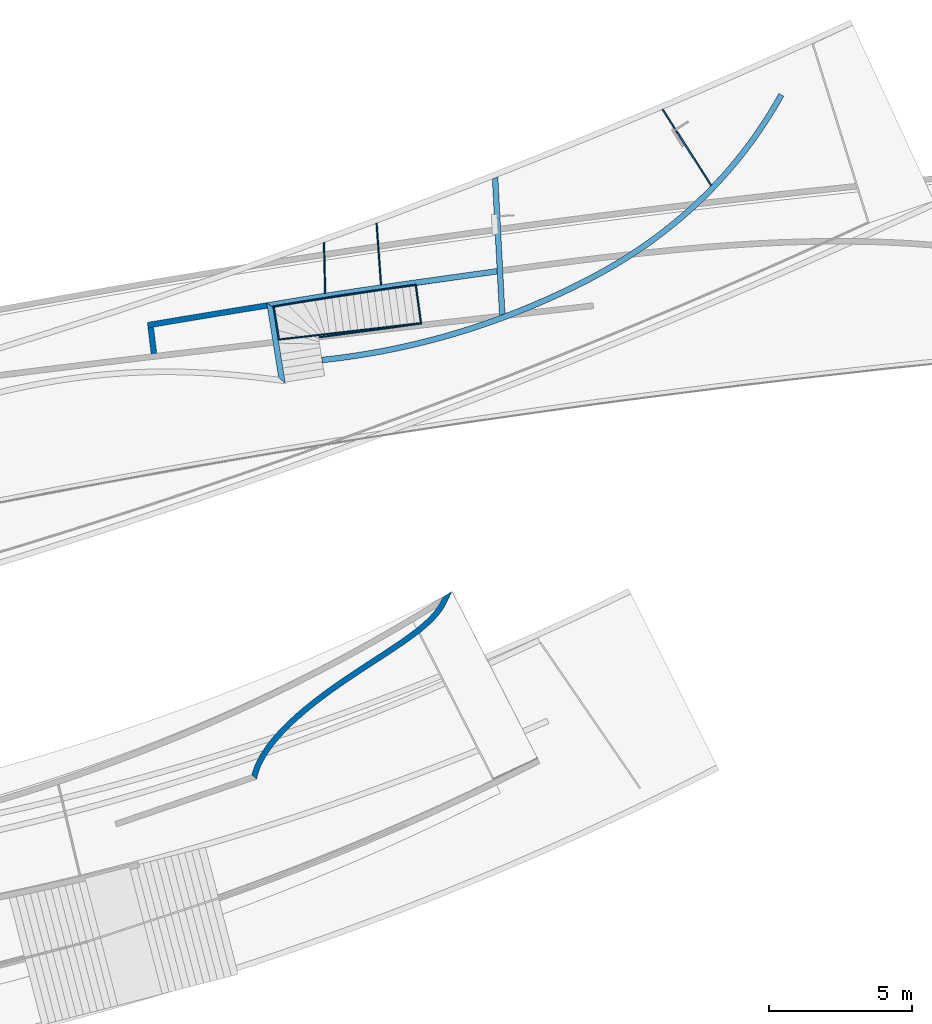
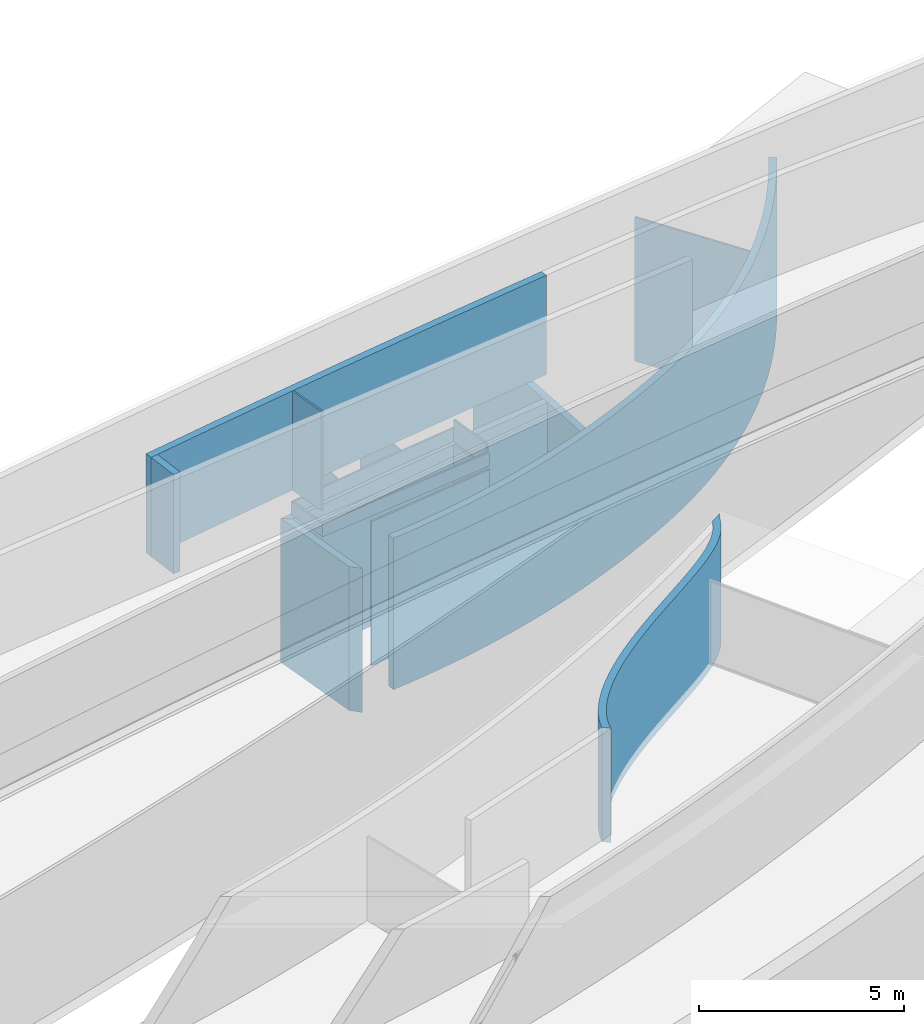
# Not in any storey, part 7 of 16: 17 walls.
"""IFC2X3 model written with IfcOpenShell, lengths in millimetres."""

from ifc_helpers import new_model, entity, si_unit, converted_unit, point, direction, frame, frame_2d, origin_with_axes, place, context, project, spatial, polyline, circle_curve, trimmed, segment, composite_curve, outline, extrude, material, layer, layer_set, layer_usage, type_object, element, save


model = new_model("IFC2X3")

# Units and contexts
model_context = context("Model", 3, precision=1.0, world=origin_with_axes(), true_north=direction((0.0, 1.0)))
ifc_project = project(units=[converted_unit("PLANEANGLEUNIT", "DEGREE", entity("IfcRatioMeasure", 0.017453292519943), si_unit("PLANEANGLEUNIT", "RADIAN"), dimensions=[0, 0, 0, 0, 0, 0, 0]), si_unit("LENGTHUNIT", "METRE", prefix="MILLI")], contexts=[model_context])

# Site
site_placement = place(None, origin_with_axes())
site = spatial("IfcSite", under=ifc_project, at=site_placement, Name="Site", CompositionType="ELEMENT")

# Walls
ifc_material_1 = material(Name="Wall layer 1")
ifc_layer_1 = layer(ifc_material_1, 200.0)
ifc_layer_set_1 = layer_set([ifc_layer_1], Name="HOKI 350")
ifc_layer_usage_1 = layer_usage(ifc_layer_set_1, "AXIS2", "POSITIVE", -100.0)
wall_type_1 = type_object("IfcWallType", Name="HOKI 350", PredefinedType="STANDARD", material=ifc_layer_set_1)
wall_1_placement = place(site_placement, frame((14103.4641431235, 6312.68434524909, 4720.0), z_axis=(0.0, 0.0, 1.0), x_axis=(-0.158177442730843, 0.987410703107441, 0.0)))
element("IfcWallStandardCase", 1, at=wall_1_placement, inside=site, type_object=wall_type_1, material=ifc_layer_usage_1, ObjectType="HOKI 350", context=model_context, shape_type="SweptSolid", body=[
    extrude(outline(polyline([(2649.91930792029, -1.893e-12), (2848.31350164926, 199.999999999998), (208.965702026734, 200.0), (-60.779817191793, -1.817e-12), (2649.91930792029, -1.893e-12)])), origin_with_axes(), (0.0, 0.0, 1.0), 4280.0),
])
wall_2_placement = place(site_placement, frame((13684.3066835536, 8929.24303226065, 4720.0), z_axis=(0.0, 0.0, 1.0), x_axis=(0.986103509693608, 0.166132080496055, 0.0)))
element("IfcWallStandardCase", 2, at=wall_2_placement, inside=site, type_object=wall_type_1, material=ifc_layer_usage_1, ObjectType="HOKI 350", context=model_context, shape_type="SweptSolid", body=[
    extrude(outline(composite_curve([segment(polyline([(7957.37781956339, 45.256395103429), (7934.38117753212, -154.177443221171)]), True, "CONTINUOUS"), segment(polyline([(7934.38117753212, -154.177443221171), (5139.96228560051, -77.1044069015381), (4083.70348644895, -50.2043086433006), (3181.01458654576, -29.9928897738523), (2376.59768692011, -15.6684498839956), (1615.15488860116, -6.429288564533), (841.388292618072, -1.47370540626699), (0.0, 0.0)]), True, "CONTINUOUS"), segment(polyline([(0.0, 0.0), (-198.394193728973, 200.0)]), True, "CONTINUOUS"), segment(polyline([(-198.394193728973, 200.0), (-1.819e-12, 199.999999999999), (843.082773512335, 198.520398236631), (1618.45398393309, 193.546876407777), (2381.52260809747, 184.277359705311), (3187.69762284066, 169.909773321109), (4092.38800499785, 149.642042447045), (5151.00273140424, 122.672092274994), (7951.64112430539, 45.417234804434), (7957.37781956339, 45.256395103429)]), True, "CONTINUOUS")], self_intersect="UNKNOWN")), origin_with_axes(), (0.0, 0.0, 1.0), 4280.0),
])
wall_3_placement = place(site_placement, frame((21606.7465079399, 8701.22840500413, 4720.0), z_axis=(0.0, 0.0, 1.0), x_axis=(-0.052079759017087, 0.998642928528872, 0.0)))
element("IfcWallStandardCase", 3, at=wall_3_placement, inside=site, type_object=wall_type_1, material=ifc_layer_usage_1, ObjectType="HOKI 350", context=model_context, shape_type="SweptSolid", body=[
    extrude(outline(composite_curve([segment(trimmed(circle_curve(frame_2d((231048.319687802, 75576.3682169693), x_axis=(-0.948509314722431, -0.316749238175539)), 238599.999963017), [point((4733.99723010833, -1.4552e-11))], [point((4800.88433836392, -199.999999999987))], True, "CARTESIAN"), True, "CONTINUOUS"), segment(polyline([(4800.88433836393, -199.999999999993), (0.108230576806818, -200.0)]), True, "CONTINUOUS"), segment(polyline([(0.108230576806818, -200.0), (-62.8905211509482, -3.638e-12)]), True, "CONTINUOUS"), segment(polyline([(-62.8905211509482, -3.638e-12), (4733.99723010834, -7.276e-12)]), True, "CONTINUOUS")], self_intersect="UNKNOWN")), origin_with_axes(), (0.0, 0.0, 1.0), 4280.0),
])
wall_4_placement = place(site_placement, frame((19755.6714776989, -1414.63336106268, 9600.00525845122), z_axis=(0.0, 0.0, 1.0), x_axis=(-0.4290949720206, -0.903259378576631, 0.0)))
element("IfcWallStandardCase", 4, at=wall_4_placement, inside=site, type_object=wall_type_1, material=ifc_layer_usage_1, ObjectType="HOKI 350", context=model_context, shape_type="SweptSolid", body=[
    extrude(outline(composite_curve([segment(polyline([(8371.80924579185, -3574.85891628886), (8435.60099416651, -3353.68080174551)]), True, "CONTINUOUS"), segment(polyline([(8435.60099416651, -3353.68080174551), (8326.04794054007, -3380.04957681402), (8212.33918321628, -3399.70384012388), (8094.70591358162, -3412.85398306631), (7973.37932302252, -3419.71039703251), (7848.59060292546, -3420.4834734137), (7720.57094467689, -3415.3836036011), (7589.55153966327, -3404.6211789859), (7455.76357927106, -3388.40659095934), (7319.47789715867, -3366.95221045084), (7180.89258266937, -3340.46029613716), (7040.20199861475, -3309.13616844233), (6897.60050780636, -3273.18514779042), (6753.2824730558, -3232.81255460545), (6607.44225717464, -3188.22370931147), (6460.27422297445, -3139.62393233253), (6311.97273326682, -3087.21854409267), (6162.78384255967, -3031.22116025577), (6012.8743212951, -2971.82952471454), (5862.37299647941, -2909.24461132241), (5711.40869511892, -2843.66739393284), (5560.11024421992, -2775.29884639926), (5408.60647078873, -2704.33994257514), (5105.49826435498, -2555.454961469), (4803.11469186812, -2398.620241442), (4502.48636937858, -2235.4435733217), (4204.64391293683, -2067.53274793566), (3910.61793859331, -1896.49555611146), (3621.05265049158, -1723.77796495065), (3336.55113866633, -1551.04920435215), (2516.96304942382, -1048.59265353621), (2256.25043127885, -891.615962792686), (2002.36848369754, -742.526476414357), (1755.67058553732, -602.903869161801), (1515.32203813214, -473.801051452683), (1397.63899187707, -413.785986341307), (1281.57469239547, -357.046213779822), (1167.0975860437, -303.770031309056), (1054.17611917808, -254.145736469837), (942.778738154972, -208.361626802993), (832.873889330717, -166.605999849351), (724.432650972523, -129.069508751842), (617.385607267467, -95.9372808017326), (511.654518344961, -67.3944331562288), (407.161144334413, -43.6260829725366), (303.827245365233, -24.8173474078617), (201.574581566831, -11.15334361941), (100.324913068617, -2.8191887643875), (0.0, 0.0), (-442.781194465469, 7.276e-12)]), True, "CONTINUOUS"), segment(polyline([(-442.781194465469, 7.276e-12), (-199.232854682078, -154.836850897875), (-128.30188897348, -200.0)]), True, "CONTINUOUS"), segment(polyline([(-128.30188897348, -200.0), (-9.09e-13, -199.999999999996), (89.2367560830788, -202.525936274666), (180.126186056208, -210.040489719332), (272.746604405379, -222.44877726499), (367.176325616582, -239.655915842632), (463.493664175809, -261.567022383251), (561.776934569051, -288.08721381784), (662.1044512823, -319.121607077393), (764.554528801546, -354.575319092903), (869.135213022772, -394.324655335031), (975.80284059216, -438.193629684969), (1084.54410722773, -486.00381329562), (1195.34570864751, -537.576777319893), (1308.19434056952, -592.734092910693), (1423.07669871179, -651.297331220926), (1658.88937652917, -777.927860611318), (1903.36092623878, -916.309622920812), (2155.43029795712, -1064.37233181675), (2414.7693387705, -1220.55745542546), (3233.12294664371, -1722.26199579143), (3518.2591347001, -1895.35145951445), (3809.02422728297, -2068.77067858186), (4105.12969550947, -2241.04687908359), (4405.4661621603, -2410.42457107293), (4709.08976784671, -2575.28415888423), (5015.05665317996, -2734.00604685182), (5168.62386965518, -2810.55922974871), (5322.42295877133, -2884.97063931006), (5476.33593810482, -2957.03782607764), (5630.24482523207, -3026.55834059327), (5784.03163772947, -3093.32973339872), (5937.57839317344, -3157.1495550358), (6090.76710914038, -3217.81535604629), (6243.47980320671, -3275.12468697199), (6395.53547252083, -3328.86856655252), (6546.76411445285, -3378.83371820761), (6697.01085661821, -3424.79178841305), (6846.12082663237, -3466.51442364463), (6993.93915211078, -3503.77327037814), (7140.31096066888, -3536.33997508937), (7285.08137992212, -3563.98618425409), (7428.09553748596, -3586.48354434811), (7552.44541277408, -3601.86111370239), (7675.26853184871, -3612.89889705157), (7796.41603542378, -3619.36240913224), (7915.73906421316, -3621.017164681), (8033.08875893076, -3617.62867843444), (8148.31626029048, -3608.96246512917), (8261.27270900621, -3594.78403950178), (8371.80924579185, -3574.85891628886)]), True, "CONTINUOUS")], self_intersect="UNKNOWN")), origin_with_axes(), (0.0, 0.0, 1.0), 3400.0),
])
wall_5_placement = place(site_placement, frame((9488.0315330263, 8313.59184272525, 9850.0), z_axis=(0.0, 0.0, 1.0), x_axis=(0.118752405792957, -0.992923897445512, 0.0)))
element("IfcWallStandardCase", 5, at=wall_5_placement, inside=site, type_object=wall_type_1, material=ifc_layer_usage_1, ObjectType="HOKI 350", context=model_context, shape_type="SweptSolid", body=[
    extrude(outline(composite_curve([segment(polyline([(995.938211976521, 0.0), (995.957514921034, -200.0)]), True, "CONTINUOUS"), segment(polyline([(995.957514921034, -200.0), (85.1374529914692, -199.999999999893)]), True, "CONTINUOUS"), segment(trimmed(circle_curve(frame_2d((379626.793295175, 18960.7321131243), x_axis=(-0.998728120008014, -0.050419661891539)), 380025.002038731), [point((85.1374529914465, -199.999999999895))], [point((75.0935067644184, -5.7e-14))], False, "CARTESIAN"), True, "CONTINUOUS"), segment(polyline([(75.0935067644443, 9.9e-14), (995.938211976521, 0.0)]), True, "CONTINUOUS")], self_intersect="UNKNOWN")), origin_with_axes(), (0.0, 0.0, 1.0), 2950.0),
])
wall_6_placement = place(site_placement, frame((15381.4961226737, 7185.48606775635, 4500.0), z_axis=(0.0, 0.0, 1.0), x_axis=(0.994444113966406, 0.105265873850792, 0.0)))
element("IfcWallStandardCase", 6, at=wall_6_placement, inside=site, type_object=wall_type_1, material=ifc_layer_usage_1, ObjectType="HOKI 350", context=model_context, shape_type="SweptSolid", body=[
    extrude(outline(composite_curve([segment(polyline([(17061.1566882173, 7385.33164154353), (16897.6622793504, 7500.52529705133)]), True, "CONTINUOUS"), segment(polyline([(16897.6622793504, 7500.52529705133), (16724.7631479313, 7259.79214877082), (16548.1503014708, 7023.11345231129), (16367.8237627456, 6790.48922576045), (16183.7835545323, 6561.91948720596), (15996.0296996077, 6337.40425473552), (15804.5622207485, 6116.94354643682), (15609.3811407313, 5900.53738039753), (15410.4864823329, 5688.18577470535), (15207.87826833, 5479.88874744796), (15001.5565214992, 5275.64631671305), (14791.5212646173, 5075.4585005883), (14577.772520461, 4879.3253171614), (14360.3103118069, 4687.24678452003), (14139.1346614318, 4499.22292075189), (13914.2455921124, 4315.25374394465), (13685.6431266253, 4135.339272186), (13453.3272877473, 3959.47952356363), (13217.2980982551, 3787.67451616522), (12977.5555809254, 3619.92426807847), (12734.0997585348, 3456.22879739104), (12486.9306538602, 3296.58812219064), (12236.0482896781, 3141.00226056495), (11981.4526887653, 2989.47123060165), (11723.1438738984, 2841.99505038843), (11461.1218678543, 2698.57373801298), (11195.3866934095, 2559.20731156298), (10925.9383733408, 2423.89578912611), (10652.7769304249, 2292.63918879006), (10375.9023874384, 2165.43752864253), (10095.3147671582, 2042.29082677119), (9811.01409236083, 1923.19910126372), (9523.00038582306, 1808.16237020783)]), True, "CONTINUOUS"), segment(polyline([(9523.00038582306, 1808.16237020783), (9232.88652324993, 1696.9180056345), (8942.29008651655, 1589.20520819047), (8651.21107562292, 1485.02397787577), (8359.64949056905, 1384.37431469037), (8067.60533135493, 1287.25621863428), (7775.07859798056, 1193.66968970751), (7482.06929044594, 1103.61472791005), (7188.57740875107, 1017.0913332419), (6894.60295289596, 934.099505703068), (6600.1459228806, 854.639245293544), (6305.20631870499, 778.710552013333), (6009.78414036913, 706.313425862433), (5713.87938787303, 637.447866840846), (5417.49206121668, 572.113874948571), (5120.62216040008, 510.311450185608), (4823.26968542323, 452.040592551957), (4525.43463628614, 397.301302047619), (4227.1170129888, 346.093578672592), (3928.31681553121, 298.417422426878), (3629.03404391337, 254.272833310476), (3329.26869813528, 213.659811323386), (3029.02077819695, 176.578356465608), (2728.29028409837, 143.028468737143), (2427.07721583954, 113.010148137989), (2125.38157342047, 86.5233946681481), (1823.20335684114, 63.568208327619), (1520.54256610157, 44.1445891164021), (1217.39920120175, 28.2525370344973), (913.773262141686, 15.8920520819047), (609.664748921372, 7.06313425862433), (305.07366154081, 1.76578356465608), (0.0, 0.0)]), True, "CONTINUOUS"), segment(polyline([(0.0, 0.0), (-1.819e-12, -200.0)]), True, "CONTINUOUS"), segment(polyline([(-1.819e-12, -200.0), (307.421631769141, -198.220876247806), (614.355672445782, -192.883504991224), (920.802122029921, -183.987886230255), (1226.76098052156, -171.534019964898), (1532.23224792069, -155.521906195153), (1837.21592422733, -135.95154492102), (2141.71200944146, -112.8229361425), (2445.72050356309, -86.1360798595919), (2749.24140659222, -55.890976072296), (3052.27471852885, -22.0876247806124), (3354.82043937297, 15.2739740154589), (3656.8785691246, 56.193820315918), (3958.44910778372, 100.671914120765), (4259.53205535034, 148.708255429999), (4560.12741182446, 200.302844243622), (4860.23517720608, 255.455680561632), (5159.85535149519, 314.166764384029), (5458.9879346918, 376.436095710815), (5757.63292679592, 442.263674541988), (6055.79032780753, 511.649500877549), (6353.46013772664, 584.593574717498), (6650.64235655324, 661.095896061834), (6947.33698428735, 741.156464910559), (7243.54402092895, 824.775281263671), (7539.26346647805, 911.95234512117), (7834.49532093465, 1002.68765648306), (8129.23958429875, 1096.98121534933), (8423.49625657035, 1194.83302172), (8717.26533774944, 1296.24307559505), (9010.54682783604, 1401.21137697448), (9303.34072683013, 1509.73792585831), (9595.64703473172, 1621.82272224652)]), True, "CONTINUOUS"), segment(polyline([(9595.64703473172, 1621.82272224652), (9886.7441941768, 1738.09903973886), (10174.1428028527, 1858.51059873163), (10457.8398127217, 1983.05570305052), (10737.8321757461, 2111.73265652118), (11014.116843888, 2244.53976296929), (11286.6907691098, 2381.47532622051), (11555.5509033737, 2522.53765010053), (11820.6941986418, 2667.72503843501), (12082.1176068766, 2817.03579504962), (12339.8180800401, 2970.46822377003), (12593.7925700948, 3128.02062842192), (12844.0380290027, 3289.69131283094), (13090.5514087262, 3455.47858082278), (13333.3296612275, 3625.38073622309), (13572.3697384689, 3799.39608285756), (13807.6685924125, 3977.52292455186), (14039.2231750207, 4159.75956513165), (14267.0304382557, 4346.1043084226), (14491.0873340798, 4536.55545825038), (14711.3908144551, 4731.11131844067), (14927.9378313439, 4929.77019281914), (15140.7253367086, 5132.53038521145), (15349.7502825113, 5339.39019944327), (15555.0096207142, 5550.34793934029), (15756.5003032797, 5765.40190872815), (15954.2192821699, 5984.55041143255), (16148.1635093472, 6207.79175127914), (16338.3299367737, 6435.1242320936), (16524.7155164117, 6666.5461577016), (16707.3172002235, 6902.05583192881), (16886.1319401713, 7141.65155860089), (17061.1566882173, 7385.33164154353)]), True, "CONTINUOUS")], self_intersect="UNKNOWN")), origin_with_axes(), (0.0, 0.0, 1.0), 4500.0),
])
wall_7_placement = place(site_placement, frame((9483.82818094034, 8338.23594610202, 9850.0), z_axis=(0.0, 0.0, 1.0), x_axis=(0.985764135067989, 0.168134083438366, 0.0)))
element("IfcWallStandardCase", 7, at=wall_7_placement, inside=site, type_object=wall_type_1, material=ifc_layer_usage_1, ObjectType="HOKI 350", context=model_context, shape_type="SweptSolid", body=[
    extrude(outline(composite_curve([segment(polyline([(12137.6369696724, -293.868986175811), (12144.0243592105, -93.9710090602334)]), True, "CONTINUOUS"), segment(trimmed(circle_curve(frame_2d((-0.399314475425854, -380175.000046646), x_axis=(0.03193589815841, 0.999489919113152)), 380275.000046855), [point((12144.0243592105, -93.9710090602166))], [point((-194.008670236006, 99.950714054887))], True, "CARTESIAN"), True, "CONTINUOUS"), segment(polyline([(-194.008670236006, 99.950714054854), (-203.997886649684, -100.054967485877)]), True, "CONTINUOUS"), segment(trimmed(circle_curve(frame_2d((0.399261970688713, -380125.003236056), x_axis=(-0.000537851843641, 0.999999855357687)), 380025.003236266), [point((-203.997886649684, -100.054967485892))], [point((12137.6369696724, -293.868986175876))], False, "CARTESIAN"), True, "CONTINUOUS")], self_intersect="UNKNOWN")), origin_with_axes(), (0.0, 0.0, 1.0), 2950.0),
])
ifc_material_2 = material(Name="Wall layer 1")
ifc_layer_2 = layer(ifc_material_2, 50.0)
ifc_layer_set_2 = layer_set([ifc_layer_2], Name="HOKI 50mm")
ifc_layer_usage_2 = layer_usage(ifc_layer_set_2, "AXIS2", "POSITIVE", -25.0)
wall_type_2 = type_object("IfcWallType", Name="HOKI 50mm", PredefinedType="STANDARD", material=ifc_layer_set_2)
wall_8_placement = place(site_placement, frame((13860.9115563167, 7826.89817501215, 9100.00088798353), z_axis=(0.0, 0.0, 1.0), x_axis=(-0.158191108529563, 0.987408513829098, -2e-15)))
element("IfcWallStandardCase", 8, at=wall_8_placement, inside=site, type_object=wall_type_2, material=ifc_layer_usage_2, ObjectType="HOKI 50mm", context=model_context, shape_type="SweptSolid", body=[
    extrude(outline(polyline([(1116.80017580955, -50.0), (1166.40363664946, -3.2e-14), (-50.05457234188, 1e-15), (-2.33535565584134, -49.9999999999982), (1116.80017580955, -49.9999999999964)])), origin_with_axes(), (0.0, 0.0, 1.0), 400.0),
])
wall_9_placement = place(site_placement, frame((18883.4854386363, 8407.15607821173, 9100.00088798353), z_axis=(0.0, 0.0, 1.0), x_axis=(-0.135579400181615, 0.990766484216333, 0.0)))
element("IfcWallStandardCase", 9, at=wall_9_placement, inside=site, type_object=wall_type_2, material=ifc_layer_usage_2, ObjectType="HOKI 50mm", context=model_context, shape_type="SweptSolid", body=[
    extrude(outline(composite_curve([segment(polyline([(1298.91491941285, 49.9999999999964), (1298.870690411, 4.1837e-11)]), True, "CONTINUOUS"), segment(polyline([(1298.870690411, 4.1837e-11), (0.0, 0.0)]), True, "CONTINUOUS"), segment(trimmed(circle_curve(frame_2d((882787.471896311, -15993.4380526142), x_axis=(-0.999835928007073, 0.018114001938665)), 882932.336364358), [point((0.0, 0.0))], [point((0.907265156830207, 50.0000000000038))], False, "CARTESIAN"), True, "CONTINUOUS"), segment(polyline([(0.90726515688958, 50.0000000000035), (1298.91491941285, 49.9999999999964)]), True, "CONTINUOUS")], self_intersect="UNKNOWN")), origin_with_axes(), (0.0, 0.0, 1.0), 650.0),
])
wall_10_placement = place(site_placement, frame((18878.5340056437, 8392.09333208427, 4720.0), z_axis=(0.0, 0.0, 1.0), x_axis=(-0.990732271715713, -0.135829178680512, 0.0)))
element("IfcWallStandardCase", 10, at=wall_10_placement, inside=site, type_object=wall_type_2, material=ifc_layer_usage_2, ObjectType="HOKI 50mm", context=model_context, shape_type="SweptSolid", body=[
    extrude(outline(composite_curve([segment(polyline([(3621.99313363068, -7.79668672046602), (3622.21453261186, 42.2028231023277)]), True, "CONTINUOUS"), segment(trimmed(circle_curve(frame_2d((97.7446347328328, -795904.401588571), x_axis=(0.004427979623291, 0.999990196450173)), 795954.407590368), [point((3622.21453261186, 42.2028231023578))], [point((-6.93419029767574, 49.9991184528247))], True, "CARTESIAN"), True, "CONTINUOUS"), segment(polyline([(-6.93419029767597, 49.9991184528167), (43.0531660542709, 0.004122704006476)]), True, "CONTINUOUS"), segment(trimmed(circle_curve(frame_2d((97.7446348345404, -795904.401526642), x_axis=(-6.8716127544e-05, 0.999999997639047)), 795904.407528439), [point((43.0531660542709, 0.004122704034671))], [point((3621.99313363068, -7.79668672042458))], False, "CARTESIAN"), True, "CONTINUOUS")], self_intersect="UNKNOWN")), origin_with_axes(), (0.0, 0.0, 1.0), 4280.0),
])
wall_11_placement = place(site_placement, frame((18707.3853295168, 9694.03362560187, 4720.0), z_axis=(0.0, 0.0, 1.0), x_axis=(0.135800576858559, -0.990736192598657, 0.0)))
element("IfcWallStandardCase", 11, at=wall_11_placement, inside=site, type_object=wall_type_2, material=ifc_layer_usage_2, ObjectType="HOKI 50mm", context=model_context, shape_type="SweptSolid", body=[
    extrude(outline(composite_curve([segment(polyline([(-4.58712602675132, -49.9989728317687), (-4.80320452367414, 0.001076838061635)]), True, "CONTINUOUS"), segment(polyline([(-4.80320452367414, 0.001076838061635), (1363.12037658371, -0.305421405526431)]), True, "CONTINUOUS"), segment(polyline([(1363.12037658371, -0.305421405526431), (1313.12682395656, -50.2942210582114)]), True, "CONTINUOUS"), segment(polyline([(1313.12682395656, -50.2942210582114), (-4.58712602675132, -49.9989728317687)]), True, "CONTINUOUS")], self_intersect="UNKNOWN")), origin_with_axes(), (0.0, 0.0, 1.0), 4280.0),
])
wall_12_placement = place(site_placement, frame((18883.4843794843, 8407.15595275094, 9100.00034153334), z_axis=(0.0, 0.0, 1.0), x_axis=(-0.993054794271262, -0.117652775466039, 0.0)))
element("IfcWallStandardCase", 12, at=wall_12_placement, inside=site, type_object=wall_type_2, material=ifc_layer_usage_2, ObjectType="HOKI 50mm", context=model_context, shape_type="SweptSolid", body=[
    extrude(outline(composite_curve([segment(polyline([(5005.90527529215, -14.4045193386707), (5053.91067217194, 35.3207811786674)]), True, "CONTINUOUS"), segment(trimmed(circle_curve(frame_2d((-37.6689630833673, -882932.261728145), x_axis=(0.005766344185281, 0.999983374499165)), 882982.262531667), [point((5053.91067217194, 35.320781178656))], [point((-0.904782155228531, 50.0000381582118))], True, "CARTESIAN"), True, "CONTINUOUS"), segment(polyline([(-0.904782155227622, 50.0000381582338), (-0.001066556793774, 2.2783752e-08)]), True, "CONTINUOUS"), segment(trimmed(circle_curve(frame_2d((-37.6689630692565, -882932.261720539), x_axis=(4.2662272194e-05, 0.999999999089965)), 882932.262524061), [point((-0.001066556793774, 2.2817403e-08))], [point((5005.90527529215, -14.4045193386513))], False, "CARTESIAN"), True, "CONTINUOUS")], self_intersect="UNKNOWN")), origin_with_axes(), (0.0, 0.0, 1.0), 399.999112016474),
])
wall_13_placement = place(site_placement, frame((13684.3066835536, 8929.24303226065, 9100.0), z_axis=(0.0, 0.0, 1.0), x_axis=(0.986103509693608, 0.166132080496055, 0.0)))
element("IfcWallStandardCase", 13, at=wall_13_placement, inside=site, type_object=wall_type_2, material=ifc_layer_usage_2, ObjectType="HOKI 50mm", context=model_context, shape_type="SweptSolid", body=[
    extrude(outline(composite_curve([segment(polyline([(5080.331734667, -80.3318176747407), (5081.87687406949, -30.3556767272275)]), True, "CONTINUOUS"), segment(polyline([(5081.87687406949, -30.3556767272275), (3938.39724661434, 4.00781681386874), (3389.54945510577, 17.7855662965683), (2826.83540055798, 29.2061728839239), (2228.40937458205, 38.2037780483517), (1572.42566878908, 44.7125232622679), (837.038574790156, 48.6665499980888), (0.402384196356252, 49.9999997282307)]), True, "CONTINUOUS"), segment(polyline([(0.402384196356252, 49.9999997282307), (50.0015850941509, -0.004226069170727)]), True, "CONTINUOUS"), segment(polyline([(50.0015850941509, -0.004226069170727), (874.772127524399, -1.464900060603), (1600.74356158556, -5.50518873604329), (2249.31840235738, -12.0610383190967), (2841.89916491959, -21.0683950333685), (3399.88836435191, -32.4632051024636), (3944.6885157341, -46.1814147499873), (5080.331734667, -80.3318176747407)]), True, "CONTINUOUS")], self_intersect="UNKNOWN")), origin_with_axes(), (0.0, 0.0, 1.0), 400.0),
])
wall_14_placement = place(site_placement, frame((13860.8961863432, 7826.89643908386, 9850.0), z_axis=(0.0, 0.0, 1.0), x_axis=(-0.15817744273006, 0.987410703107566, 0.0)))
element("IfcWallStandardCase", 14, at=wall_14_placement, inside=site, type_object=wall_type_2, material=ifc_layer_usage_2, ObjectType="HOKI 50mm", context=model_context, shape_type="SweptSolid", body=[
    extrude(outline(composite_curve([segment(trimmed(circle_curve(frame_2d((-378908.354430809, 404.55810342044), x_axis=(0.999999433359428, -0.001064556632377)), 380024.971068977), [point((1116.40130060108, -6.935e-12))], [point((1116.34478347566, -50.0000000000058))], False, "CARTESIAN"), True, "CONTINUOUS"), segment(polyline([(1116.34478347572, -50.0000000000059), (-2.13591770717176, -50.0000000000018)]), True, "CONTINUOUS"), segment(polyline([(-2.13591770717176, -50.0000000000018), (0.0, 0.0)]), True, "CONTINUOUS"), segment(polyline([(0.0, 0.0), (1116.4013006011, -6.865e-12)]), True, "CONTINUOUS")], self_intersect="UNKNOWN")), origin_with_axes(), (0.0, 0.0, 1.0), 2950.0),
])
wall_15_placement = place(site_placement, frame((27351.7623192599, 15877.4400833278, 4720.0), z_axis=(0.0, 0.0, 1.0), x_axis=(0.536349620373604, -0.843995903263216, 0.0)))
element("IfcWallStandardCase", 15, at=wall_15_placement, inside=site, type_object=wall_type_2, material=ifc_layer_usage_2, ObjectType="HOKI 50mm", context=model_context, shape_type="SweptSolid", body=[
    extrude(outline(composite_curve([segment(polyline([(3146.59147007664, -1.75e-13), (3158.79766199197, -49.9999999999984)]), True, "CONTINUOUS"), segment(polyline([(3158.79766199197, -49.9999999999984), (-8.30926837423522, -49.9999999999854)]), True, "CONTINUOUS"), segment(trimmed(circle_curve(frame_2d((-235376.095204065, 39090.3724390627), x_axis=(0.986453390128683, -0.16404179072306)), 238600.007147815), [point((-8.30926837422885, -49.9999999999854))], [point((0.0, 0.0))], True, "CARTESIAN"), True, "CONTINUOUS"), segment(polyline([(0.0, 0.0), (3146.59147007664, -1.75e-13)]), True, "CONTINUOUS")], self_intersect="UNKNOWN")), origin_with_axes(), (0.0, 0.0, 1.0), 4280.0),
])
wall_16_placement = place(site_placement, frame((15485.224382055, 9252.44567216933, 4720.0), z_axis=(0.0, 0.0, 1.0), x_axis=(-0.023540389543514, 0.999722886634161, 0.0)))
element("IfcWallStandardCase", 16, at=wall_16_placement, inside=site, type_object=wall_type_2, material=ifc_layer_usage_2, ObjectType="HOKI 50mm", context=model_context, shape_type="SweptSolid", body=[
    extrude(outline(composite_curve([segment(trimmed(circle_curve(frame_2d((228100.701624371, 76036.7171083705), x_axis=(-0.947862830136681, -0.318678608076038)), 238600.003832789), [point((1940.62672080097, 2.9104e-11))], [point((1957.44324889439, -49.9999999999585))], True, "CARTESIAN"), True, "CONTINUOUS"), segment(polyline([(1957.44324889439, -49.9999999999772), (180.067490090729, -50.0000000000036)]), True, "CONTINUOUS"), segment(polyline([(180.067490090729, -50.0000000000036), (173.42137216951, 0.0)]), True, "CONTINUOUS"), segment(polyline([(173.42137216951, 0.0), (1940.62672080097, 2.8194e-11)]), True, "CONTINUOUS")], self_intersect="UNKNOWN")), origin_with_axes(), (0.0, 0.0, 1.0), 4280.0),
])
wall_17_placement = place(site_placement, frame((17448.7667095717, 9559.66997182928, 4720.0), z_axis=(0.0, 0.0, 1.0), x_axis=(-0.07192172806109, 0.997410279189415, 0.0)))
element("IfcWallStandardCase", 17, at=wall_17_placement, inside=site, type_object=wall_type_2, material=ifc_layer_usage_2, ObjectType="HOKI 50mm", context=model_context, shape_type="SweptSolid", body=[
    extrude(outline(composite_curve([segment(trimmed(circle_curve(frame_2d((231349.796220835, 66882.8980599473), x_axis=(-0.959908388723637, -0.280313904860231)), 238600.001285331), [point((2315.6534375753, -1.4552e-11))], [point((2330.26043697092, -50.0000000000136))], True, "CARTESIAN"), True, "CONTINUOUS"), segment(polyline([(2330.26043697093, -50.0000000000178), (163.853540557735, -50.0000000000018)]), True, "CONTINUOUS"), segment(polyline([(163.853540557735, -50.0000000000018), (160.268470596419, -1.819e-12)]), True, "CONTINUOUS"), segment(polyline([(160.268470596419, -1.819e-12), (2315.6534375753, -1.4552e-11)]), True, "CONTINUOUS")], self_intersect="UNKNOWN")), origin_with_axes(), (0.0, 0.0, 1.0), 4280.0),
])

save(model, "model.ifc")
